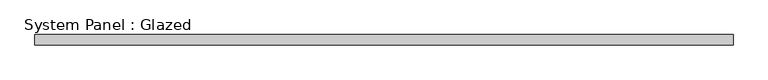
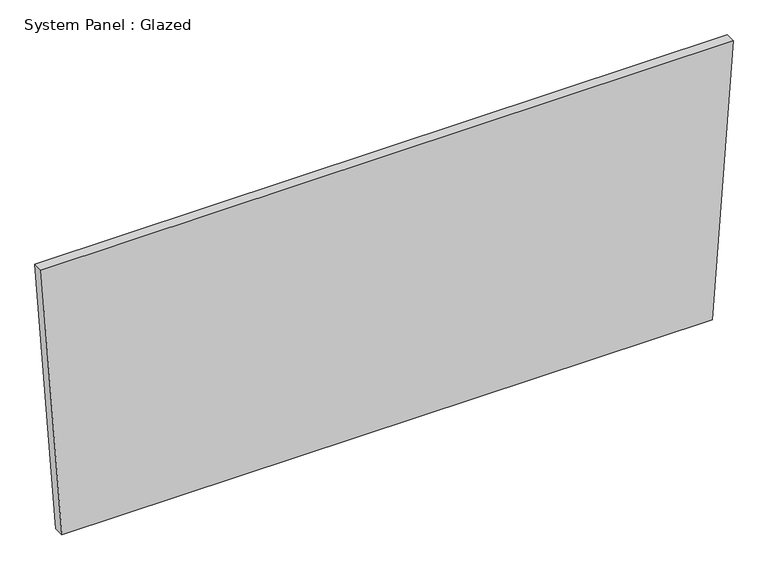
"""IFC4 building model written with IfcOpenShell, lengths in millimetres: plate geometry, System Panel : Glazed."""

from ifc_helpers import new_model, si_unit, frame, origin, place, context, project, spatial, polyline, outline, extrude, source, transform, mapped, element, save


def system_panel_glazed_4f0f1837(model_context):
    return source(origin(), model_context, "Body", "SweptSolid", [
        extrude(outline(polyline([(0.0006585, -794.6456237), (0.0, 794.6455757), (702.1299864, 845.8072937), (702.1299864, -845.8072937), (0.0006585, -794.6456237)])), frame((0.0, 19.05, 0.0), z_axis=(0.0, 1.0, 0.0), x_axis=(0.0, 0.0, 1.0)), (0.0, 0.0, 1.0), 25.4),
    ])


if __name__ == "__main__":
    model = new_model("IFC4")
    model_context = context("Model", 3, world=origin())
    ifc_project = project(units=[si_unit("LENGTHUNIT", "METRE", prefix="MILLI")], contexts=[model_context])
    site = spatial("IfcSite", under=ifc_project)
    building = spatial("IfcBuilding", under=site)
    placement = place(None, origin())
    system_panel_glazed_shape = system_panel_glazed_4f0f1837(model_context)
    element("IfcPlate", 1, ObjectType="System Panel : Glazed", at=placement, inside=building, context=model_context, shape_type="MappedRepresentation", body=[
        mapped(system_panel_glazed_shape, transform((0.0, 0.0, 0.0), x_axis=(1.0, 0.0, 0.0), y_axis=(0.0, 1.0, 0.0), z_axis=(0.0, 0.0, 1.0))),
    ])
    save(model, "model.ifc")
